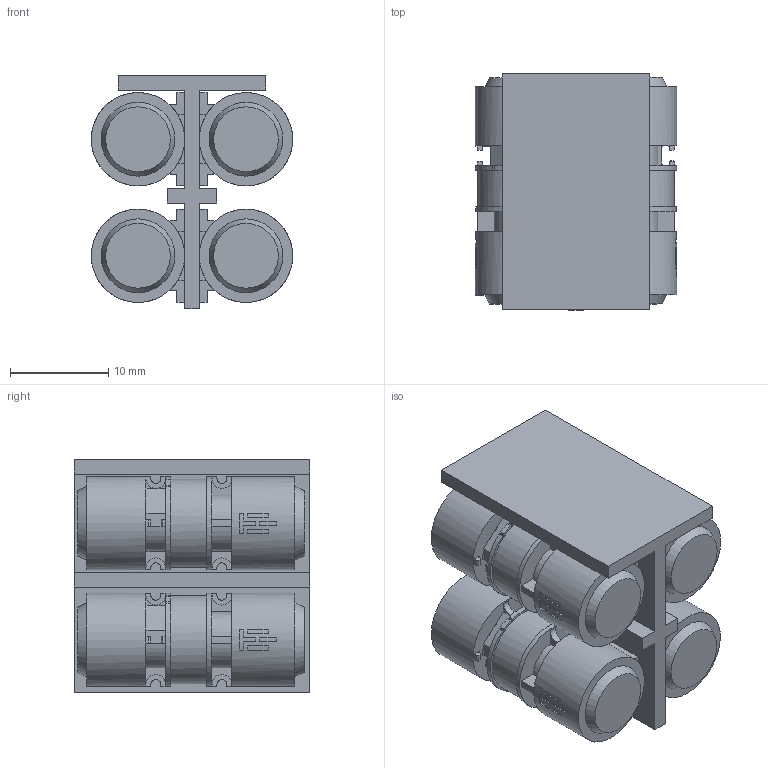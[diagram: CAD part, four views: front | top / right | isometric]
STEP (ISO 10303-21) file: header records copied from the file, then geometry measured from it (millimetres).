
FILE_DESCRIPTION(/* description */ (''),/* implementation_level */ '2;1');
FILE_NAME(/* name */ 'Shanwan Oneshot 2x2 drake cluster v7.step',/* time_stamp */ '2023-06-06T16:00:26-04:00',/* author */ (''),/* organization */ (''),/* preprocessor_version */ 'ST-DEVELOPER v19.2',/* originating_system */ 'Autodesk Translation Framework v12.6.0.85',/* authorisation */ '');
FILE_SCHEMA (('AUTOMOTIVE_DESIGN { 1 0 10303 214 3 1 1 }'));
Length unit declared in the file: millimetre
Products named in the file (6): Shanwan Oneshot 2x2 drake cluster; TacHammer - Drake Volume; TacHammer - Drake Volume_1; TacHammer - Drake Volume_2; TacHammer - Drake Volume_3; Volume_Env
Assembly tree (8 placements, depth 3):
  Shanwan Oneshot 2x2 drake cluster
    TacHammer - Drake Volume
      Volume_Env
    TacHammer - Drake Volume_1
      Volume_Env
    TacHammer - Drake Volume_2
      Volume_Env
    TacHammer - Drake Volume_3
      Volume_Env
Bounding box: 20.5 x 24 x 23.75 mm (x, y, z)
Volume: 7146.6 mm3; surface area: 6472.5 mm2
Topology: 5 solids, 5 shells, 722 faces, 1980 edges, 1280 vertices
Faces by surface type: plane 510, cylinder 196, cone 8, torus 8
Full cylindrical faces by diameter (mm): 9 x4, 9.5 x8
Entity records: 6320 total; most frequent: CARTESIAN_POINT 1102, DIRECTION 1077, ORIENTED_EDGE 1062, EDGE_CURVE 531, LINE 399, VECTOR 399, VERTEX_POINT 344, AXIS2_PLACEMENT_3D 339
